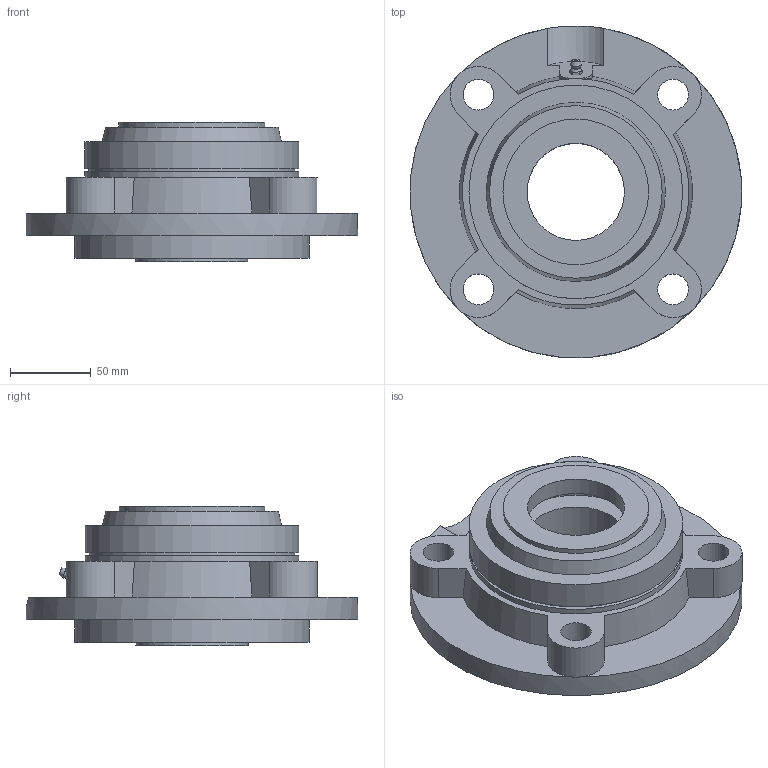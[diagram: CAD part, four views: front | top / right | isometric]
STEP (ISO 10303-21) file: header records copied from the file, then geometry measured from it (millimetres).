
FILE_DESCRIPTION((''),'2;1');
FILE_NAME('\\Ts-tgl068\j-cad-d-base\00.3DCADデータ作成フォルダ\02.フランジ形\UKFC200C(E)\UKFC213C+H.stp','2014-05-22T07:50:22',('btec_1106_2'),(''),'Autodesk Inventor 2012','Autodesk Inventor 2012','');
FILE_SCHEMA(('AUTOMOTIVE_DESIGN { 1 0 10303 214 1 1 1 1 }'));
Length unit declared in the file: millimetre
Products named in the file (5): UKFC200C+H; FC213C; UK213; GU1; 213CPA60
Assembly tree (4 placements, depth 2):
  UKFC200C+H
    FC213C
    UK213
    GU1
    213CPA60
Bounding box: 204.76 x 204.94 x 86 mm (x, y, z)
Volume: 845037.9 mm3; surface area: 210898.5 mm2
Topology: 4 solids, 4 shells, 231 faces, 563 edges, 359 vertices
Faces by surface type: plane 100, cylinder 64, cone 59, sphere 4, bspline 2, torus 2
Full cylindrical faces by diameter (mm): 5.359 x1, 6.35 x1, 19 x4, 60 x2, 65 x1, 82.1 x2, 90 x2, 125 x1, 127 x1, 130 x2, 132 x3, 145 x1, 205 x1
Entity records: 6686 total; most frequent: CARTESIAN_POINT 1441, DIRECTION 1085, ORIENTED_EDGE 1034, EDGE_CURVE 517, AXIS2_PLACEMENT_3D 451, VERTEX_POINT 344, EDGE_LOOP 301, FACE_OUTER_BOUND 231
